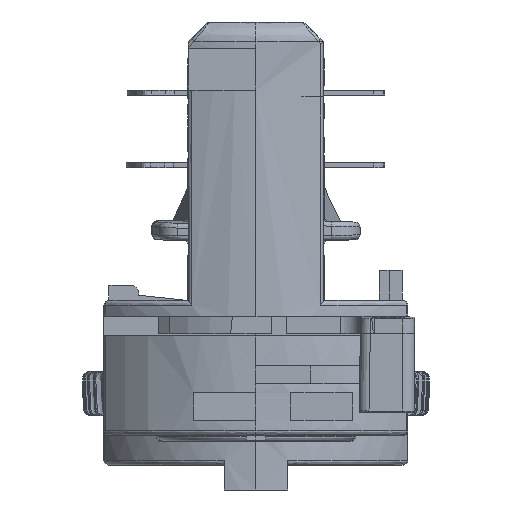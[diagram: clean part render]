
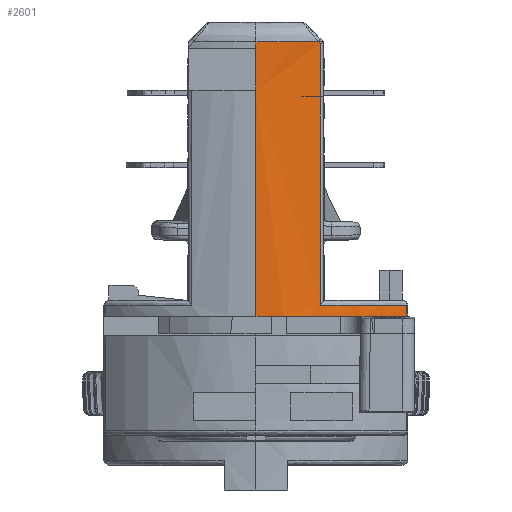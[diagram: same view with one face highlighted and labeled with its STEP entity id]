
A CAD part, left-side view. The second image highlights one B-rep face of the part: STEP entity #2601.
In plain terms, the highlighted free-form (B-spline) face has degree [2, 1] with [9, 2] control points.
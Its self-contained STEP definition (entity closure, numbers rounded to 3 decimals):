
#191=(
BOUNDED_CURVE()
B_SPLINE_CURVE(1,(#46057,#46058),.UNSPECIFIED.,.F.,.F.)
B_SPLINE_CURVE_WITH_KNOTS((2,2),(0.,26.293),.UNSPECIFIED.)
CURVE()
GEOMETRIC_REPRESENTATION_ITEM()
RATIONAL_B_SPLINE_CURVE((1.,1.))
REPRESENTATION_ITEM('')
);
#208=(
BOUNDED_CURVE()
B_SPLINE_CURVE(2,(#46102,#46103,#46104),.UNSPECIFIED.,.F.,.F.)
B_SPLINE_CURVE_WITH_KNOTS((3,3),(59.235,64.958),
 .UNSPECIFIED.)
CURVE()
GEOMETRIC_REPRESENTATION_ITEM()
RATIONAL_B_SPLINE_CURVE((1.,0.988,1.))
REPRESENTATION_ITEM('')
);
#209=(
BOUNDED_CURVE()
B_SPLINE_CURVE(1,(#46105,#46106),.UNSPECIFIED.,.F.,.F.)
B_SPLINE_CURVE_WITH_KNOTS((2,2),(871.747,872.397),
 .UNSPECIFIED.)
CURVE()
GEOMETRIC_REPRESENTATION_ITEM()
RATIONAL_B_SPLINE_CURVE((1.,1.))
REPRESENTATION_ITEM('')
);
#210=(
BOUNDED_CURVE()
B_SPLINE_CURVE(1,(#46107,#46108),.UNSPECIFIED.,.F.,.F.)
B_SPLINE_CURVE_WITH_KNOTS((2,2),(881.597,904.347),
 .UNSPECIFIED.)
CURVE()
GEOMETRIC_REPRESENTATION_ITEM()
RATIONAL_B_SPLINE_CURVE((1.,1.))
REPRESENTATION_ITEM('')
);
#211=(
BOUNDED_CURVE()
B_SPLINE_CURVE(2,(#46109,#46110,#46111),.UNSPECIFIED.,.F.,.F.)
B_SPLINE_CURVE_WITH_KNOTS((3,3),(0.,17.163),.UNSPECIFIED.)
CURVE()
GEOMETRIC_REPRESENTATION_ITEM()
RATIONAL_B_SPLINE_CURVE((1.,0.911,1.))
REPRESENTATION_ITEM('')
);
#212=(
BOUNDED_CURVE()
B_SPLINE_CURVE(1,(#46112,#46113),.UNSPECIFIED.,.F.,.F.)
B_SPLINE_CURVE_WITH_KNOTS((2,2),(-1.1,0.),.UNSPECIFIED.)
CURVE()
GEOMETRIC_REPRESENTATION_ITEM()
RATIONAL_B_SPLINE_CURVE((1.,1.))
REPRESENTATION_ITEM('')
);
#213=(
BOUNDED_CURVE()
B_SPLINE_CURVE(2,(#46114,#46115,#46116),.UNSPECIFIED.,.F.,.F.)
B_SPLINE_CURVE_WITH_KNOTS((3,3),(-10.588,0.),.UNSPECIFIED.)
CURVE()
GEOMETRIC_REPRESENTATION_ITEM()
RATIONAL_B_SPLINE_CURVE((1.,0.966,1.))
REPRESENTATION_ITEM('')
);
#2601=ADVANCED_FACE('',(#4514),#30397,.T.);
#4514=FACE_OUTER_BOUND('',#6433,.T.);
#6433=EDGE_LOOP('',(#10083,#10084,#10085,#10086,#10087,#10088,#10089,#10090,
#10091));
#10083=ORIENTED_EDGE('',*,*,#19210,.F.);
#10084=ORIENTED_EDGE('',*,*,#19333,.T.);
#10085=ORIENTED_EDGE('',*,*,#19228,.T.);
#10086=ORIENTED_EDGE('',*,*,#19229,.T.);
#10087=ORIENTED_EDGE('',*,*,#19030,.F.);
#10088=ORIENTED_EDGE('',*,*,#19230,.T.);
#10089=ORIENTED_EDGE('',*,*,#19231,.F.);
#10090=ORIENTED_EDGE('',*,*,#19232,.T.);
#10091=ORIENTED_EDGE('',*,*,#19233,.T.);
#19030=EDGE_CURVE('',#27975,#27976,#23965,.T.);
#19210=EDGE_CURVE('',#28102,#28103,#191,.T.);
#19228=EDGE_CURVE('',#28118,#28119,#208,.T.);
#19229=EDGE_CURVE('',#28119,#27976,#209,.T.);
#19230=EDGE_CURVE('',#27975,#27711,#210,.T.);
#19231=EDGE_CURVE('',#27710,#27711,#211,.T.);
#19232=EDGE_CURVE('',#27710,#28120,#212,.T.);
#19233=EDGE_CURVE('',#28120,#28103,#213,.T.);
#19333=EDGE_CURVE('',#28102,#28118,#24135,.T.);
#23965=B_SPLINE_CURVE_WITH_KNOTS('',1,(#45610,#45611),.UNSPECIFIED.,.F.,
 .F.,(2,2),(-4.85,-0.65),.UNSPECIFIED.);
#24135=B_SPLINE_CURVE_WITH_KNOTS('',3,(#46394,#46395,#46396,#46397),
 .UNSPECIFIED.,.F.,.F.,(4,4),(0.,0.305),.UNSPECIFIED.);
#27710=VERTEX_POINT('',#42117);
#27711=VERTEX_POINT('',#42118);
#27975=VERTEX_POINT('',#42382);
#27976=VERTEX_POINT('',#42383);
#28102=VERTEX_POINT('',#42509);
#28103=VERTEX_POINT('',#42510);
#28118=VERTEX_POINT('',#42525);
#28119=VERTEX_POINT('',#42526);
#28120=VERTEX_POINT('',#42527);
#30397=(
BOUNDED_SURFACE()
B_SPLINE_SURFACE(2,1,((#35051,#35052),(#35053,#35054),(#35055,#35056),(#35057,
#35058),(#35059,#35060),(#35061,#35062),(#35063,#35064),(#35065,#35066),
(#35067,#35068)),.UNSPECIFIED.,.T.,.F.,.F.)
B_SPLINE_SURFACE_WITH_KNOTS((3,2,2,2,3),(2,2),(0.,31.763,63.525,
95.288,127.05),(0.,33.655),.UNSPECIFIED.)
GEOMETRIC_REPRESENTATION_ITEM()
RATIONAL_B_SPLINE_SURFACE(((1.,1.),(0.707,0.707),
(1.,1.),(0.707,0.707),(1.,1.),(0.707,
0.707),(1.,1.),(0.707,0.707),(1.,1.)))
REPRESENTATION_ITEM('')
SURFACE()
);
#35051=CARTESIAN_POINT('',(-67.657,-110.491,29.952));
#35052=CARTESIAN_POINT('',(-67.657,-110.491,-3.704));
#35053=CARTESIAN_POINT('',(-67.657,-130.712,29.952));
#35054=CARTESIAN_POINT('',(-67.657,-130.712,-3.704));
#35055=CARTESIAN_POINT('',(-87.878,-130.712,29.952));
#35056=CARTESIAN_POINT('',(-87.878,-130.712,-3.704));
#35057=CARTESIAN_POINT('',(-108.099,-130.712,29.952));
#35058=CARTESIAN_POINT('',(-108.099,-130.712,-3.704));
#35059=CARTESIAN_POINT('',(-108.099,-110.491,29.952));
#35060=CARTESIAN_POINT('',(-108.099,-110.491,-3.704));
#35061=CARTESIAN_POINT('',(-108.099,-90.27,29.952));
#35062=CARTESIAN_POINT('',(-108.099,-90.27,-3.704));
#35063=CARTESIAN_POINT('',(-87.878,-90.27,29.952));
#35064=CARTESIAN_POINT('',(-87.878,-90.27,-3.704));
#35065=CARTESIAN_POINT('',(-67.657,-90.27,29.952));
#35066=CARTESIAN_POINT('',(-67.657,-90.27,-3.704));
#35067=CARTESIAN_POINT('',(-67.657,-110.491,29.952));
#35068=CARTESIAN_POINT('',(-67.657,-110.491,-3.704));
#42117=CARTESIAN_POINT('',(-101.242,-125.666,-0.676));
#42118=CARTESIAN_POINT('',(-108.099,-110.491,-0.676));
#42382=CARTESIAN_POINT('',(-108.099,-110.491,22.074));
#42383=CARTESIAN_POINT('',(-108.099,-110.491,26.274));
#42509=CARTESIAN_POINT('',(-107.039,-116.951,26.717));
#42510=CARTESIAN_POINT('',(-107.039,-116.951,0.424));
#42525=CARTESIAN_POINT('',(-107.11,-116.738,26.924));
#42526=CARTESIAN_POINT('',(-108.099,-110.491,26.924));
#42527=CARTESIAN_POINT('',(-101.242,-125.666,0.424));
#45610=CARTESIAN_POINT('',(-108.099,-110.491,22.074));
#45611=CARTESIAN_POINT('',(-108.099,-110.491,26.274));
#46057=CARTESIAN_POINT('',(-107.039,-116.951,26.717));
#46058=CARTESIAN_POINT('',(-107.039,-116.951,0.424));
#46102=CARTESIAN_POINT('',(-107.11,-116.738,26.924));
#46103=CARTESIAN_POINT('',(-108.099,-113.693,26.924));
#46104=CARTESIAN_POINT('',(-108.099,-110.491,26.924));
#46105=CARTESIAN_POINT('',(-108.099,-110.491,26.924));
#46106=CARTESIAN_POINT('',(-108.099,-110.491,26.274));
#46107=CARTESIAN_POINT('',(-108.099,-110.491,22.074));
#46108=CARTESIAN_POINT('',(-108.099,-110.491,-0.676));
#46109=CARTESIAN_POINT('',(-101.242,-125.666,-0.676));
#46110=CARTESIAN_POINT('',(-108.099,-119.628,-0.676));
#46111=CARTESIAN_POINT('',(-108.099,-110.491,-0.676));
#46112=CARTESIAN_POINT('',(-101.242,-125.666,-0.676));
#46113=CARTESIAN_POINT('',(-101.242,-125.666,0.424));
#46114=CARTESIAN_POINT('',(-101.242,-125.666,0.424));
#46115=CARTESIAN_POINT('',(-105.308,-122.085,0.424));
#46116=CARTESIAN_POINT('',(-107.039,-116.951,0.424));
#46394=CARTESIAN_POINT('',(-107.039,-116.951,26.717));
#46395=CARTESIAN_POINT('',(-107.063,-116.88,26.786));
#46396=CARTESIAN_POINT('',(-107.086,-116.809,26.855));
#46397=CARTESIAN_POINT('',(-107.11,-116.738,26.924));
